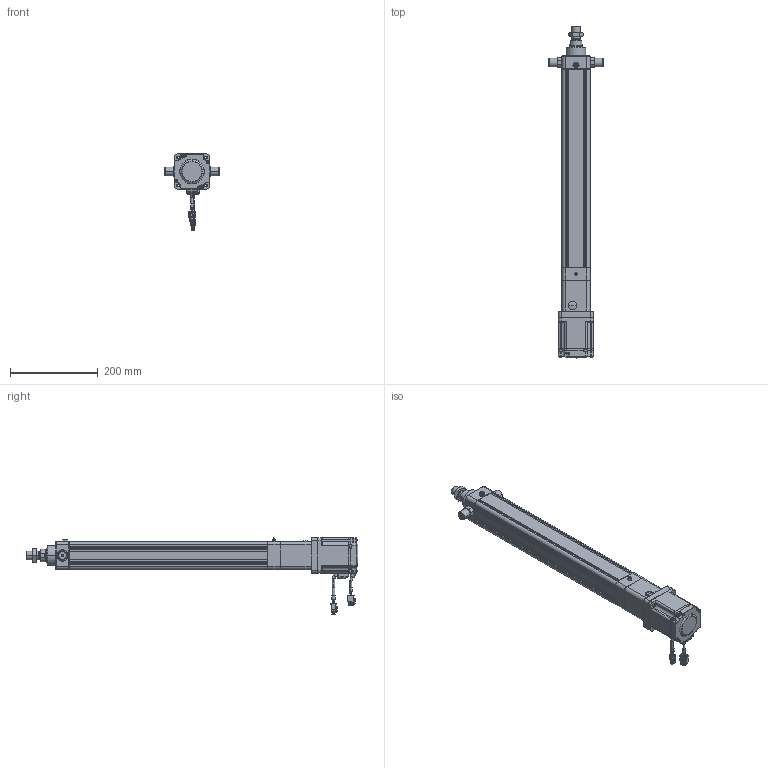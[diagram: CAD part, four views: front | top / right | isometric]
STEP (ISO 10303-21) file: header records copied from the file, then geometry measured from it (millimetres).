
FILE_DESCRIPTION((''),'2;1');
FILE_NAME('HE50-D-100-X1_ASM','2020-05-21T',('ASUS20200'),(''),'CREO PARAMETRIC BY PTC INC, 2014190','CREO PARAMETRIC BY PTC INC, 2014190','');
FILE_SCHEMA(('CONFIG_CONTROL_DESIGN'));
Length unit declared in the file: millimetre
Products named in the file (26): HE50-D-P-001-X1; HE50-D-P-002-X1; HE50-D-P-003-X1; HE50-D-009-X1; HE50-D-010-X1; 6301ZZ; LGLM-M8-22; SKT-16; SLM-01; YZ-M6X1; _MHMF082L1A2; _CABLE_MOTOR_BOTTOM_05; _CABLE_MOTOR_TOP_05; _MOTOR_CONNECTOR_2; _CABLE_BRAKE_BOTTOM_05; _CABLE_BRAKE_TOP_05; _MHMF_CONNECTOR_9_PIN_A6; MHMF082L1A2M2_1_ASM; M6X16; JX6X6X20; JDB303820; HE50-TC; HE50-D-P-005-X1; HE50-D-P-004-X1; HE50-D-P-008-X1; HE50-D-100-X1_ASM
Assembly tree (36 placements, depth 3):
  HE50-D-100-X1_ASM
    HE50-D-P-001-X1
    HE50-D-P-002-X1
    HE50-D-P-003-X1
    HE50-D-009-X1
    HE50-D-010-X1
    6301ZZ
    LGLM-M8-22  x8
    SKT-16
    SLM-01
    YZ-M6X1
    MHMF082L1A2M2_1_ASM
      _MHMF082L1A2
      _CABLE_MOTOR_BOTTOM_05
      _CABLE_MOTOR_TOP_05
      _MOTOR_CONNECTOR_2
      _CABLE_BRAKE_BOTTOM_05
      _CABLE_BRAKE_TOP_05
      _MHMF_CONNECTOR_9_PIN_A6
    M6X16  x4
    JX6X6X20
    JDB303820
    HE50-TC  x2
    HE50-D-P-005-X1
    HE50-D-P-004-X1
    HE50-D-P-008-X1
Bounding box: 124 x 758.4 x 173.65 mm (x, y, z)
Volume: 1855557.3 mm3; surface area: 517058.8 mm2
Topology: 35 solids, 65 shells, 2585 faces, 6301 edges, 3913 vertices
Faces by surface type: plane 1098, cylinder 749, cone 589, torus 102, sphere 44, bspline 3
Entity records: 67165 total; most frequent: CARTESIAN_POINT 12760, DIRECTION 11919, ORIENTED_EDGE 10734, EDGE_CURVE 5423, AXIS2_PLACEMENT_3D 4452, VERTEX_POINT 3397, VECTOR 3015, LINE 3015
